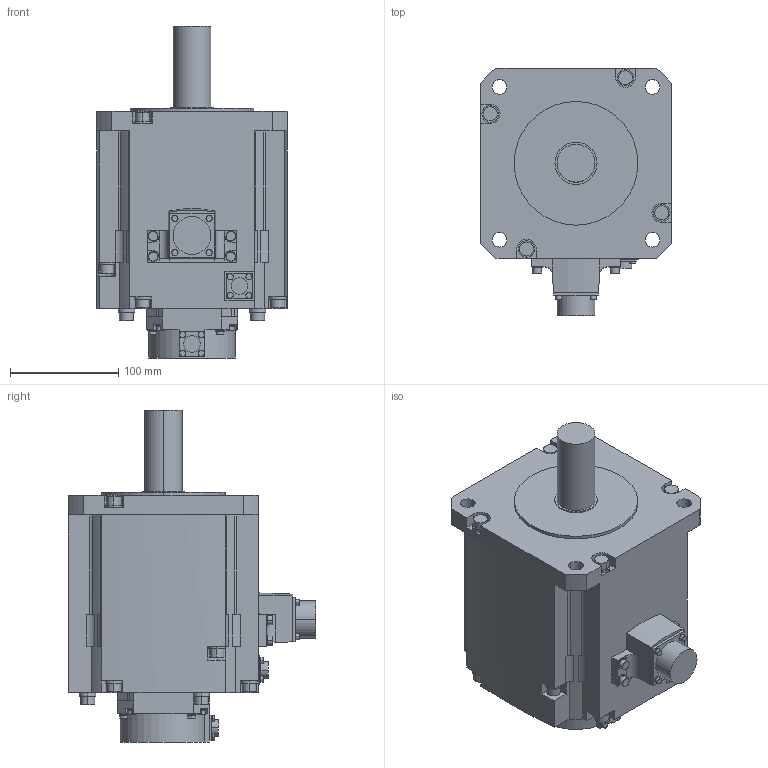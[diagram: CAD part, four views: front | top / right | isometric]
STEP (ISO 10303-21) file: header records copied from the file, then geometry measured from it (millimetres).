
FILE_DESCRIPTION((''),'2;1');
FILE_NAME('HG-SR301B_502B_ASM','2011-11-07T',('BL67252'),(''),'PRO/ENGINEER BY PARAMETRIC TECHNOLOGY CORPORATION, 2009400','PRO/ENGINEER BY PARAMETRIC TECHNOLOGY CORPORATION, 2009400','');
FILE_SCHEMA(('CONFIG_CONTROL_DESIGN'));
Length unit declared in the file: millimetre
Products named in the file (1): HG-SR301B_502B_ASM
Bounding box: 176 x 228.85 x 307 mm (x, y, z)
Volume: 5477267.2 mm3; surface area: 229086.8 mm2
Topology: 1 solids, 1 shells, 481 faces, 1180 edges, 786 vertices
Faces by surface type: plane 245, cylinder 235, cone 1
Entity records: 14504 total; most frequent: DIRECTION 2656, CARTESIAN_POINT 2529, ORIENTED_EDGE 2360, EDGE_CURVE 1180, AXIS2_PLACEMENT_3D 999, VERTEX_POINT 786, VECTOR 658, LINE 658
